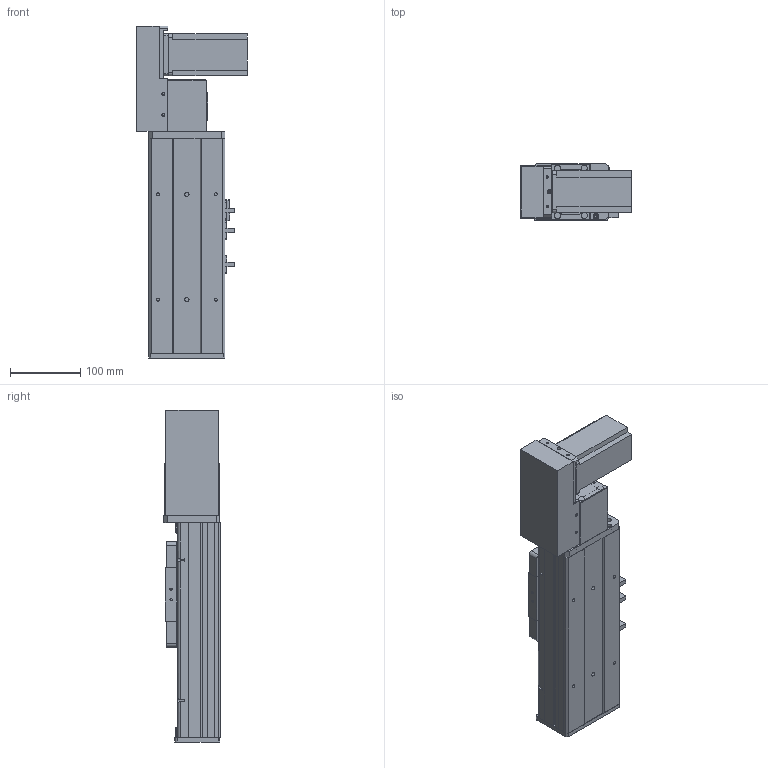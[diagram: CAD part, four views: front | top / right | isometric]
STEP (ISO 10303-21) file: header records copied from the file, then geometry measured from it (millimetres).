
FILE_DESCRIPTION (( 'STEP AP203' ), '1' );
FILE_NAME ('Y10CB-D90-S50-BL-P400W.STEP', '2020-02-15T07:13:59', ( '微软用户' ), ( '微软中国' ), 'SwSTEP 2.0', 'SolidWorks 2017', '' );
FILE_SCHEMA (( 'CONFIG_CONTROL_DESIGN' ));
Length unit declared in the file: millimetre
Products named in the file (18): Y100-135俋离換覜ん--; 0B-埴倛裔啣; 0CB-雄赽釱---; Y10CB-D90-S50-BL-P400W; Y俋欶BR----; 0Cb-俋欶---; 10CB-詩湍-; Y10B-々湍喘謫眊楊擘啣--; Y10CB- 掛极耜裔啣-毀---; Y10B--々湍喘謫眊--666; Y10C---詩湍揤啣; Y10B-耜蚾蟀諉啣----; 10CB9-掛极; 0B-萇儂楊擘啣; 10CB-耜裔; san松下电机400不带刹车----; Y135C-陔俋离換覜結え-; 0B-源倛裔啣
Assembly tree (21 placements, depth 2):
  Y10CB-D90-S50-BL-P400W
    0CB-雄赽釱---
    0Cb-俋欶---
    Y10B-々湍喘謫眊楊擘啣--
    Y10B--々湍喘謫眊--666
    Y10B-耜蚾蟀諉啣----
    0B-萇儂楊擘啣
    san松下电机400不带刹车----
    0B-源倛裔啣
    0B-埴倛裔啣
    Y俋欶BR----
    10CB-詩湍-
    Y10CB- 掛极耜裔啣-毀---  x2
    Y10C---詩湍揤啣  x2
    10CB9-掛极
    10CB-耜裔
    Y135C-陔俋离換覜結え-
    Y100-135俋离換覜ん--  x3
Bounding box: 157.5 x 80.5 x 472.5 mm (x, y, z)
Volume: 1479013.6 mm3; surface area: 576393.1 mm2
Topology: 21 solids, 21 shells, 972 faces, 2557 edges, 1686 vertices
Faces by surface type: plane 477, cylinder 471, cone 24
Entity records: 29313 total; most frequent: CARTESIAN_POINT 4955, DIRECTION 4803, ORIENTED_EDGE 4494, EDGE_CURVE 2247, AXIS2_PLACEMENT_3D 1726, VERTEX_POINT 1482, LINE 1351, VECTOR 1351
